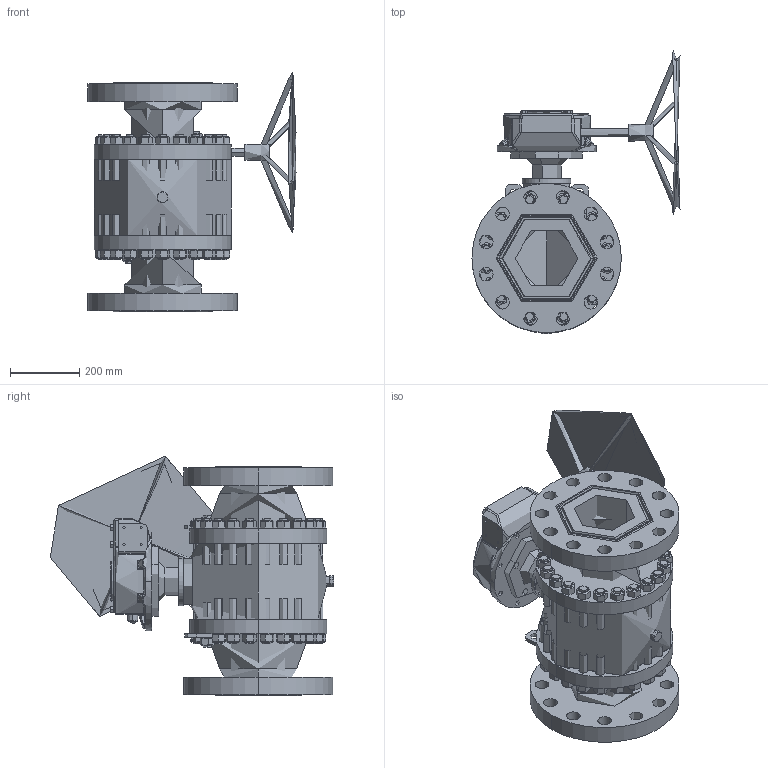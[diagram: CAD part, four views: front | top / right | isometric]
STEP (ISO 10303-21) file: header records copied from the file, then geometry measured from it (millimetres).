
FILE_DESCRIPTION(('STEP AP203'), '1');
FILE_NAME('ZARD 200.100.27.P.stp', '2013-12-06T12:33:24', ('UNSPECIFIED UNSPECIFIED'), ('UNSPECIFIED'), 'ASCON STEP Converter 1.3', 'Kompas 3D', '');
FILE_SCHEMA(('CONFIG_CONTROL_DESIGN','SUPPORT_RESOURCE_SCHEMA'));
Length unit declared in the file: millimetre
Products named in the file (1): 311
Bounding box: 599 x 816.23 x 691.06 mm (x, y, z)
Surface area: 2867484.4 mm2 (no closed solid volume)
Topology: 0 solids, 106 shells, 1253 faces, 3965 edges, 2732 vertices
Faces by surface type: plane 531, cylinder 341, cone 229, bspline 148, torus 4
Entity records: 93798 total; most frequent: CARTESIAN_POINT 60405, ORIENTED_EDGE 6419, DIRECTION 6051, EDGE_CURVE 3888, VERTEX_POINT 2702, AXIS2_PLACEMENT_3D 2277, EDGE_LOOP 1575, LINE 1497
